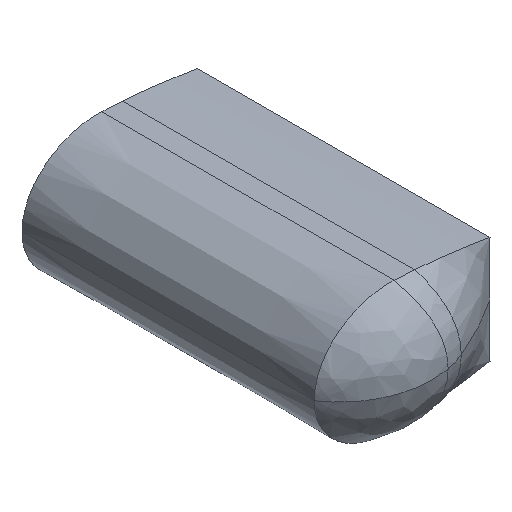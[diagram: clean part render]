
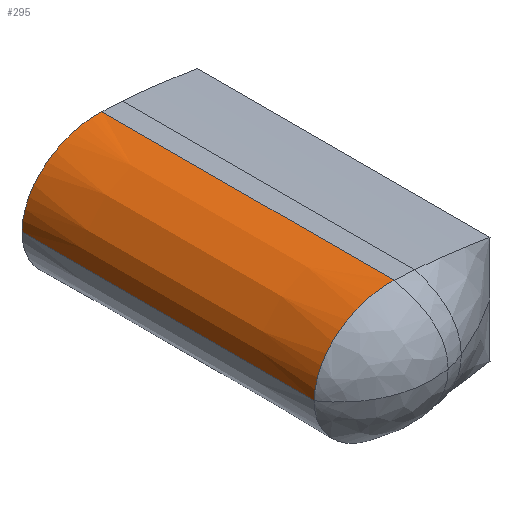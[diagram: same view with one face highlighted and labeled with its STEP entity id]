
A CAD part, isometric view. The second image highlights one B-rep face of the part: STEP entity #295.
In plain terms, the highlighted face is a extrusion surface.
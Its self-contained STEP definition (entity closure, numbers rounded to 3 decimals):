
#42=CARTESIAN_POINT('',(-3.308,5.,0.));
#48=CARTESIAN_POINT('',(-3.308,5.,0.));
#49=CARTESIAN_POINT('',(-3.308,5.,0.081));
#50=CARTESIAN_POINT('',(-3.287,5.,0.242));
#51=CARTESIAN_POINT('',(-3.166,5.,0.546));
#52=CARTESIAN_POINT('',(-2.888,5.,0.856));
#53=CARTESIAN_POINT('',(-2.437,5.,1.071));
#54=CARTESIAN_POINT('',(-2.105,5.,1.108));
#55=CARTESIAN_POINT('',(-1.941,5.,1.101));
#57=DIRECTION('',(0.,-1.,0.));
#58=VECTOR('',#57,5.);
#59=CARTESIAN_POINT('',(-1.941,5.,1.101));
#60=LINE('',#59,#58);
#61=DIRECTION('',(0.,1.,0.));
#62=VECTOR('',#61,5.);
#63=CARTESIAN_POINT('',(-3.308,0.,0.));
#64=LINE('',#63,#62);
#135=CARTESIAN_POINT('',(-3.308,0.,0.));
#146=CARTESIAN_POINT('',(-3.308,0.,0.));
#147=CARTESIAN_POINT('',(-3.308,0.,0.081));
#148=CARTESIAN_POINT('',(-3.287,0.,0.242));
#149=CARTESIAN_POINT('',(-3.166,0.,0.546));
#150=CARTESIAN_POINT('',(-2.888,0.,0.856));
#151=CARTESIAN_POINT('',(-2.437,0.,1.071));
#152=CARTESIAN_POINT('',(-2.105,0.,1.108));
#153=CARTESIAN_POINT('',(-1.941,0.,1.101));
#170=VERTEX_POINT('',#42);
#171=VERTEX_POINT('',#55);
#184=VERTEX_POINT('',#135);
#185=CARTESIAN_POINT('',(-1.941,0.,1.101));
#186=VERTEX_POINT('',#185);
#274=CARTESIAN_POINT('',(-1.941,5.,1.101));
#275=CARTESIAN_POINT('',(-2.105,5.,1.108));
#276=CARTESIAN_POINT('',(-2.437,5.,1.071));
#277=CARTESIAN_POINT('',(-2.888,5.,0.856));
#278=CARTESIAN_POINT('',(-3.166,5.,0.546));
#279=CARTESIAN_POINT('',(-3.287,5.,0.242));
#280=CARTESIAN_POINT('',(-3.308,5.,0.081));
#281=CARTESIAN_POINT('',(-3.308,5.,0.));
#283=DIRECTION('',(0.,-1.,0.));
#284=VECTOR('',#283,1.);
#285=SURFACE_OF_LINEAR_EXTRUSION('',#282,#284);
#287=ORIENTED_EDGE('',*,*,#286,.T.);
#289=ORIENTED_EDGE('',*,*,#288,.T.);
#291=ORIENTED_EDGE('',*,*,#290,.F.);
#292=ORIENTED_EDGE('',*,*,#266,.T.);
#293=EDGE_LOOP('',(#287,#289,#291,#292));
#294=FACE_OUTER_BOUND('',#293,.F.);
#295=ADVANCED_FACE('',(#294),#285,.T.);
#56=B_SPLINE_CURVE_WITH_KNOTS('',3,(#48,#49,#50,#51,#52,#53,#54,#55),
.UNSPECIFIED.,.F.,.F.,(4,1,1,1,1,4),(0.,0.125,0.25,0.5,0.75,1.),
.UNSPECIFIED.);
#154=B_SPLINE_CURVE_WITH_KNOTS('',3,(#146,#147,#148,#149,#150,#151,#152,#153),
.UNSPECIFIED.,.F.,.F.,(4,1,1,1,1,4),(0.,0.125,0.25,0.5,
0.75,1.),.UNSPECIFIED.);
#266=EDGE_CURVE('',#184,#170,#64,.T.);
#282=B_SPLINE_CURVE_WITH_KNOTS('',3,(#274,#275,#276,#277,#278,#279,#280,#281),
.UNSPECIFIED.,.F.,.F.,(4,1,1,1,1,4),(0.,0.25,0.5,0.75,0.875,1.),
.UNSPECIFIED.);
#286=EDGE_CURVE('',#170,#171,#56,.T.);
#288=EDGE_CURVE('',#171,#186,#60,.T.);
#290=EDGE_CURVE('',#184,#186,#154,.T.);
